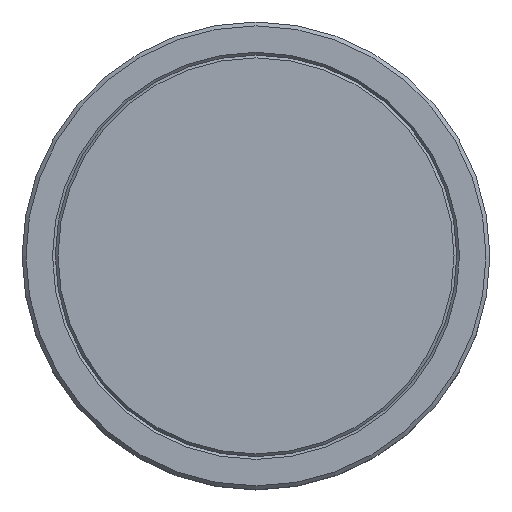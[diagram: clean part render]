
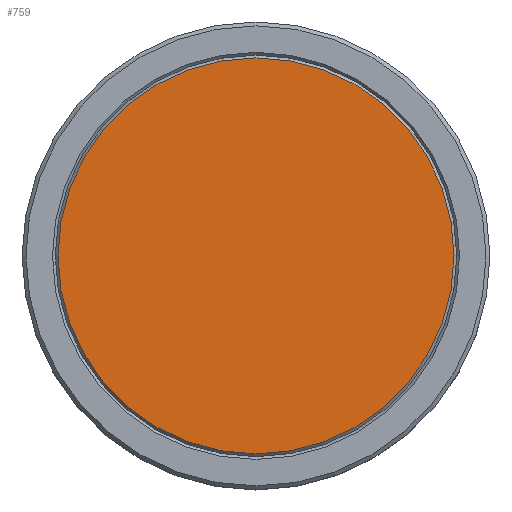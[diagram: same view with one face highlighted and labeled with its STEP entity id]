
A CAD part, top view. The second image highlights one B-rep face of the part: STEP entity #759.
In plain terms, the highlighted planar face has unit normal (0, 0, 1).
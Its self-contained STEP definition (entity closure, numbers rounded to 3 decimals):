
#687 = CONICAL_SURFACE('',#688,10.14,0.755);
#688 = AXIS2_PLACEMENT_3D('',#689,#690,#691);
#689 = CARTESIAN_POINT('',(0.,0.,23.02));
#690 = DIRECTION('',(-0.,-0.,-1.));
#691 = DIRECTION('',(1.,0.,0.));
#704 = EDGE_CURVE('',#705,#705,#707,.T.);
#705 = VERTEX_POINT('',#706);
#706 = CARTESIAN_POINT('',(10.159,0.,23.));
#707 = SURFACE_CURVE('',#708,(#713,#720),.PCURVE_S1.);
#708 = CIRCLE('',#709,10.159);
#709 = AXIS2_PLACEMENT_3D('',#710,#711,#712);
#710 = CARTESIAN_POINT('',(0.,0.,23.));
#711 = DIRECTION('',(0.,0.,-1.));
#712 = DIRECTION('',(1.,0.,0.));
#713 = PCURVE('',#687,#714);
#714 = DEFINITIONAL_REPRESENTATION('',(#715),#719);
#715 = LINE('',#716,#717);
#716 = CARTESIAN_POINT('',(-6.283,0.02));
#717 = VECTOR('',#718,1.);
#718 = DIRECTION('',(1.,-0.));
#719 = ( GEOMETRIC_REPRESENTATION_CONTEXT(2) 
PARAMETRIC_REPRESENTATION_CONTEXT() REPRESENTATION_CONTEXT('2D SPACE',''
  ) );
#720 = PCURVE('',#721,#726);
#721 = PLANE('',#722);
#722 = AXIS2_PLACEMENT_3D('',#723,#724,#725);
#723 = CARTESIAN_POINT('',(0.,0.,23.));
#724 = DIRECTION('',(0.,0.,1.));
#725 = DIRECTION('',(1.,0.,-0.));
#726 = DEFINITIONAL_REPRESENTATION('',(#727),#735);
#727 = ( BOUNDED_CURVE() B_SPLINE_CURVE(2,(#728,#729,#730,#731,#732,#733
,#734),.UNSPECIFIED.,.T.,.F.) B_SPLINE_CURVE_WITH_KNOTS((1,2,2,2,2,1),(
    -2.094,0.,2.094,4.189,6.283,
8.378),.UNSPECIFIED.) CURVE() GEOMETRIC_REPRESENTATION_ITEM() 
RATIONAL_B_SPLINE_CURVE((1.,0.5,1.,0.5,1.,0.5,1.)) REPRESENTATION_ITEM(
  '') );
#728 = CARTESIAN_POINT('',(10.159,0.));
#729 = CARTESIAN_POINT('',(10.159,-17.596));
#730 = CARTESIAN_POINT('',(-5.079,-8.798));
#731 = CARTESIAN_POINT('',(-20.318,0.));
#732 = CARTESIAN_POINT('',(-5.079,8.798));
#733 = CARTESIAN_POINT('',(10.159,17.596));
#734 = CARTESIAN_POINT('',(10.159,0.));
#735 = ( GEOMETRIC_REPRESENTATION_CONTEXT(2) 
PARAMETRIC_REPRESENTATION_CONTEXT() REPRESENTATION_CONTEXT('2D SPACE',''
  ) );
#759 = ADVANCED_FACE('',(#760),#721,.T.);
#760 = FACE_BOUND('',#761,.T.);
#761 = EDGE_LOOP('',(#762));
#762 = ORIENTED_EDGE('',*,*,#704,.F.);
